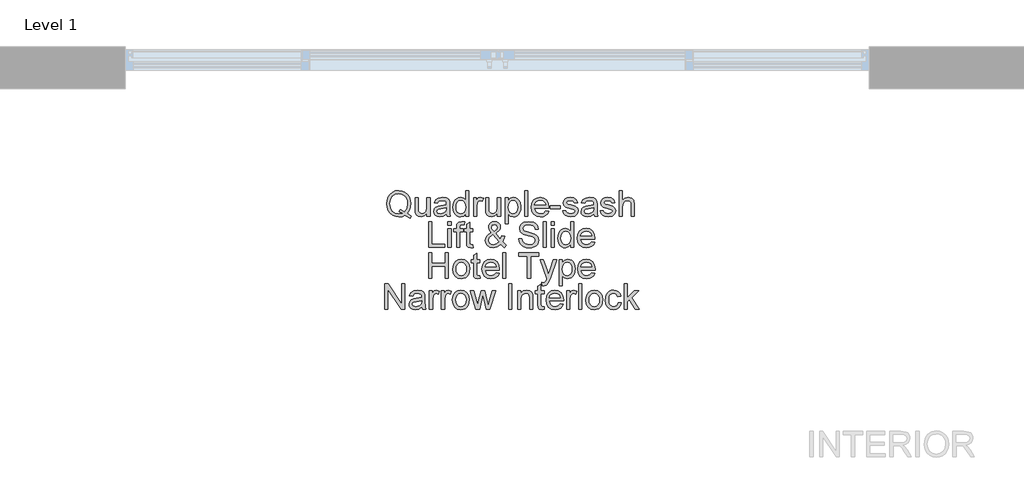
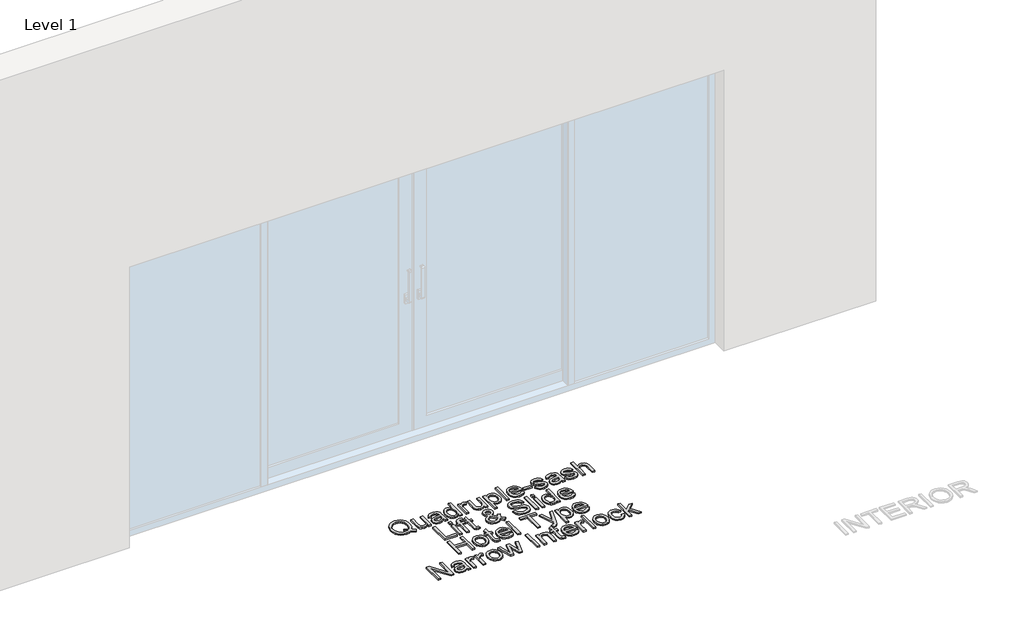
# One storey, part 15 of 17: 1 proxy.
"""IFC4 building model written with IfcOpenShell, lengths in millimetres."""

from ifc_helpers import new_model, si_unit, origin, origin_with_axes, place, context, project, spatial, polyline, outline, extrude, element, save

model = new_model("IFC4")

# Units and contexts
model_context = context("Model", 3, world=origin())
ifc_project = project(units=[si_unit("LENGTHUNIT", "METRE", prefix="MILLI")], contexts=[model_context])

# Site, building, storey
site = spatial("IfcSite", under=ifc_project)
building = spatial("IfcBuilding", under=site)
storey = spatial("IfcBuildingStorey", under=building, Name="Level 1", Elevation=0.0)

# Proxy
placement = place(None, origin())
element("IfcBuildingElementProxy", 1, Name="150mm Arial", ObjectType="150mm Arial", at=placement, inside=storey, context=model_context, shape_type="SweptSolid", body=[
    extrude(outline(polyline([(28795.8659523, -5879.5997474), (28819.226459, -5895.3083086), (28814.1496875, -5909.1038834), (28783.1372353, -5891.4823358), (28765.7088257, -5897.8834825), (28746.5329767, -5900.0171981), (28727.2651572, -5897.5569873), (28709.8551418, -5890.1763547), (28695.2732192, -5878.3397515), (28684.4896783, -5862.5116287), (28677.8264156, -5843.5611074), (28675.6053281, -5822.3573089), (28677.8218171, -5801.1351163), (28684.4712842, -5781.9086836), (28695.2134384, -5765.855233), (28709.707989, -5754.151987), (28727.0536251, -5747.0058793), (28746.3490357, -5744.6238433), (28765.7961977, -5747.0610616), (28783.2292058, -5754.3727162), (28797.7007637, -5766.0713637), (28808.2635755, -5781.6695603), (28814.7199045, -5800.3395715), (28816.8720142, -5821.2536629), (28811.6480899, -5854.1791015), (28805.0905933, -5867.8367206), (28795.8659523, -5879.5997474)]), holes=[polyline([(28751.7201129, -5854.5469835), (28767.5574328, -5860.534263), (28780.3413321, -5868.8575931), (28793.6126751, -5849.4334238), (28798.0364561, -5822.2101561), (28796.4729576, -5805.6324737), (28791.7824621, -5791.2896744), (28784.0799329, -5779.5450417), (28773.4803329, -5770.7618591), (28760.7010321, -5765.2850159), (28746.4594003, -5763.4594015), (28725.931585, -5767.152017), (28709.2297424, -5778.2298636), (28698.1381003, -5796.6377589), (28694.4408862, -5822.3205207), (28698.0967136, -5847.4514595), (28709.0641955, -5865.9697195), (28725.7154543, -5877.3786598), (28746.4226121, -5881.18164), (28766.6929101, -5877.318879), (28746.8640705, -5868.9679577), (28751.7201129, -5854.5469835)])]), origin_with_axes(), (0.0, 0.0, 1.0), 10.0),
    extrude(outline(polyline([(28913.4042498, -5897.6627533), (28913.4042498, -5878.6432542), (28898.6521817, -5894.6737121), (28879.4119534, -5900.0171981), (28861.6984353, -5896.2648018), (28849.4847531, -5886.8470227), (28843.8745527, -5872.9778715), (28842.7709067, -5855.4666885), (28842.7709067, -5787.0038492), (28861.6064648, -5787.0038492), (28861.6064648, -5846.6007324), (28862.746899, -5865.8041726), (28870.1965094, -5877.0797557), (28884.2312075, -5881.18164), (28899.9581628, -5876.9877852), (28910.3508292, -5865.5650493), (28913.4042498, -5844.5773814), (28913.4042498, -5787.0038492), (28932.2398079, -5787.0038492), (28932.2398079, -5897.6627533), (28913.4042498, -5897.6627533)])), origin_with_axes(), (0.0, 0.0, 1.0), 10.0),
    extrude(outline(polyline([(29028.7720434, -5883.5360847), (29010.5067024, -5896.30159), (28990.3283749, -5900.0171981), (28974.5876241, -5897.782315), (28962.9763486, -5891.0776656), (28955.8164453, -5880.8965314), (28953.4298108, -5868.2321937), (28957.0350544, -5853.3329729), (28966.5080158, -5842.5172423), (28979.6965853, -5836.3368247), (28995.9937577, -5833.5041334), (29028.6616788, -5827.0294103), (29028.7720434, -5822.8355555), (29027.4752594, -5814.4294519), (29023.5849073, -5808.9296161), (29014.8844981, -5804.846126), (29002.7627864, -5803.4849626), (28983.706499, -5807.1086002), (28974.6198138, -5819.966076), (28955.7842556, -5817.6116312), (28963.9328418, -5799.2175314), (28980.3403788, -5788.438589), (29005.1908076, -5784.6494044), (29028.0178854, -5787.9971306), (29040.9121493, -5796.4032342), (29046.6878966, -5809.1871335), (29047.6076016, -5825.6682469), (29047.6076016, -5849.10233), (29048.5640948, -5881.8254334), (29052.3164911, -5897.6627533), (29033.480933, -5897.6627533), (29028.7720434, -5883.5360847)]), holes=[polyline([(29028.7720434, -5845.8649684), (28998.3849906, -5851.6407157), (28982.1797888, -5854.6941363), (28974.8405429, -5859.6605432), (28972.265369, -5866.9078185), (28977.8755694, -5877.0981498), (28994.3382887, -5881.18164), (29013.394576, -5876.6750855), (29025.6818347, -5865.7673844), (29028.6616788, -5851.1992574), (29028.7720434, -5845.8649684)])]), origin_with_axes(), (0.0, 0.0, 1.0), 10.0),
    extrude(outline(polyline([(29141.7853924, -5897.6627533), (29141.7853924, -5879.894053), (29129.3233898, -5894.9864118), (29112.0973153, -5900.0171981), (29099.9204213, -5898.1961822), (29088.7735969, -5892.7331346), (29079.3374237, -5884.0097328), (29072.2924835, -5872.4076544), (29067.9054907, -5858.3959489), (29066.4431597, -5842.4436659), (29071.832631, -5812.4612833), (29078.5648715, -5800.5694978), (29087.9826506, -5791.8231033), (29099.3731968, -5786.4428292), (29112.023739, -5784.6494044), (29129.3877691, -5789.7813583), (29141.7853924, -5803.1170806), (29141.7853924, -5746.9782881), (29160.6209505, -5746.9782881), (29160.6209505, -5897.6627533), (29141.7853924, -5897.6627533)]), holes=[polyline([(29085.2787179, -5842.3700895), (29087.4032364, -5859.4076244), (29093.776792, -5871.5247376), (29103.0382212, -5878.7674144), (29113.8263607, -5881.18164), (29124.6099017, -5878.877779), (29133.6368062, -5871.966196), (29139.7482458, -5860.3181323), (29141.7853924, -5843.8048292), (29139.7114576, -5825.7510203), (29133.4896534, -5813.2338354), (29124.2328227, -5805.9221808), (29113.0538085, -5803.4849626), (29102.1553044, -5805.8256118), (29093.224969, -5812.8475594), (29087.2652807, -5824.9094903), (29085.2787179, -5842.3700895)])]), origin_with_axes(), (0.0, 0.0, 1.0), 10.0),
    extrude(outline(polyline([(29188.8742877, -5897.6627533), (29188.8742877, -5787.0038492), (29205.3554011, -5787.0038492), (29205.3554011, -5803.374598), (29217.0540486, -5788.2914362), (29228.8262724, -5784.6494044), (29247.735407, -5790.4619399), (29241.4446249, -5807.3477235), (29228.200873, -5803.4849626), (29217.5506893, -5807.2005707), (29210.7632665, -5817.5012666), (29207.7098459, -5839.5006099), (29207.7098459, -5897.6627533), (29188.8742877, -5897.6627533)])), origin_with_axes(), (0.0, 0.0, 1.0), 10.0),
    extrude(outline(polyline([(29330.1409739, -5897.6627533), (29330.1409739, -5878.6432542), (29315.3889059, -5894.6737121), (29296.1486775, -5900.0171981), (29278.4351595, -5896.2648018), (29266.2214772, -5886.8470227), (29260.6112768, -5872.9778715), (29259.5076308, -5855.4666885), (29259.5076308, -5787.0038492), (29278.343189, -5787.0038492), (29278.343189, -5846.6007324), (29279.4836232, -5865.8041726), (29286.9332336, -5877.0797557), (29300.9679317, -5881.18164), (29316.694887, -5876.9877852), (29327.0875533, -5865.5650493), (29330.1409739, -5844.5773814), (29330.1409739, -5787.0038492), (29348.976532, -5787.0038492), (29348.976532, -5897.6627533), (29330.1409739, -5897.6627533)])), origin_with_axes(), (0.0, 0.0, 1.0), 10.0),
    extrude(outline(polyline([(29374.8754245, -5940.0427592), (29374.8754245, -5787.0038492), (29393.7109827, -5787.0038492), (29393.7109827, -5805.4715254), (29406.7340053, -5789.8549347), (29424.3187647, -5784.6494044), (29437.0566787, -5786.4704203), (29448.1943061, -5791.9334679), (29457.2625973, -5800.7074535), (29463.7925027, -5812.4612833), (29469.0532153, -5841.4871727), (29467.5678917, -5857.5958055), (29463.111921, -5872.0029842), (29455.8278575, -5883.9775431), (29445.8582555, -5892.7883169), (29434.24698, -5898.2099778), (29422.0378963, -5900.0171981), (29405.6487534, -5895.1795499), (29393.7109827, -5882.9474735), (29393.7109827, -5940.0427592), (29374.8754245, -5940.0427592)]), holes=[polyline([(29393.7109827, -5843.2162181), (29395.7481292, -5860.1020016), (29401.8595689, -5871.9110137), (29410.8772763, -5878.8639834), (29421.6332261, -5881.18164), (29432.5639199, -5878.7812099), (29441.8115535, -5871.5799199), (29448.1161312, -5859.3386465), (29450.2176571, -5841.8182665), (29448.166715, -5825.0244534), (29442.0138886, -5813.0498945), (29433.0099768, -5805.8761955), (29422.4057783, -5803.4849626), (29411.760193, -5806.0279469), (29402.4113918, -5813.6568997), (29395.886085, -5826.1326979), (29393.7109827, -5843.2162181)])]), origin_with_axes(), (0.0, 0.0, 1.0), 10.0),
    extrude(outline(polyline([(29490.2432182, -5897.6627533), (29490.2432182, -5746.9782881), (29509.0787763, -5746.9782881), (29509.0787763, -5897.6627533), (29490.2432182, -5897.6627533)])), origin_with_axes(), (0.0, 0.0, 1.0), 10.0),
    extrude(outline(polyline([(29614.8080618, -5864.7005266), (29633.2757379, -5867.0549713), (29626.6216723, -5880.9701078), (29616.0036782, -5891.3719712), (29601.660879, -5897.8558914), (29583.8323978, -5900.0171981), (29561.7318869, -5896.2877944), (29544.7265417, -5885.0995832), (29533.8832199, -5867.1791315), (29530.2687793, -5843.2530063), (29533.9200081, -5818.5221391), (29544.8736945, -5800.0268718), (29561.6491135, -5788.4937713), (29582.76554, -5784.6494044), (29603.2243774, -5788.4845742), (29619.5721336, -5799.9900836), (29630.2912952, -5818.4485627), (29633.8643491, -5843.1426417), (29633.7539845, -5848.2194132), (29549.1043374, -5848.2194132), (29552.3646916, -5862.3184907), (29559.9384622, -5872.6835659), (29570.869156, -5879.0571214), (29584.2002798, -5881.18164), (29602.6679559, -5877.2453026), (29614.8080618, -5864.7005266)]), holes=[polyline([(29549.1043374, -5829.383855), (29615.028791, -5829.383855), (29612.4812081, -5819.4326471), (29607.4872101, -5812.3141305), (29596.5059325, -5805.6922545), (29582.6919636, -5803.4849626), (29569.9954362, -5805.2461976), (29559.4970038, -5810.5299028), (29552.1991447, -5818.765861), (29549.1043374, -5829.383855)])]), origin_with_axes(), (0.0, 0.0, 1.0), 10.0),
    extrude(outline(polyline([(29643.2821282, -5852.9283027), (29643.2821282, -5834.0927446), (29702.1432474, -5834.0927446), (29702.1432474, -5852.9283027), (29643.2821282, -5852.9283027)])), origin_with_axes(), (0.0, 0.0, 1.0), 10.0),
    extrude(outline(polyline([(29716.269916, -5864.7005266), (29735.1054742, -5862.3460818), (29738.0761213, -5870.4026975), (29743.8242775, -5876.3255976), (29763.8002698, -5881.18164), (29783.00371, -5876.7302678), (29789.2577039, -5866.2824192), (29787.6850083, -5861.4815591), (29782.9669218, -5857.8211333), (29763.5795406, -5852.4500561), (29735.2158388, -5843.2346122), (29722.8366096, -5832.4740638), (29718.6243608, -5817.2805374), (29722.0088752, -5803.2458393), (29731.2427132, -5792.5220791), (29743.2172722, -5786.9486669), (29759.4224741, -5784.6494044), (29782.3415224, -5788.3466185), (29796.9096494, -5798.3530087), (29803.3843725, -5815.2571864), (29784.5488143, -5817.6116312), (29777.4670859, -5807.2189648), (29760.894002, -5803.4849626), (29742.8677843, -5807.0534179), (29737.459919, -5815.367551), (29739.7039991, -5820.8489927), (29746.7305452, -5825.0060593), (29762.9541412, -5829.015973), (29790.6004732, -5837.8819291), (29803.4395548, -5847.9251076), (29808.093262, -5864.2958564), (29802.6302144, -5882.3220741), (29786.8664709, -5895.4002791), (29763.5427524, -5900.0171981), (29744.5508444, -5897.791512), (29730.6908902, -5891.1144538), (29721.4386581, -5880.0595999), (29716.269916, -5864.7005266)])), origin_with_axes(), (0.0, 0.0, 1.0), 10.0),
    extrude(outline(polyline([(29899.916608, -5883.5360847), (29881.651267, -5896.30159), (29861.4729395, -5900.0171981), (29845.7321887, -5897.782315), (29834.1209132, -5891.0776656), (29826.9610099, -5880.8965314), (29824.5743754, -5868.2321937), (29828.179619, -5853.3329729), (29837.6525803, -5842.5172423), (29850.8411499, -5836.3368247), (29867.1383223, -5833.5041334), (29899.8062434, -5827.0294103), (29899.916608, -5822.8355555), (29898.619824, -5814.4294519), (29894.7294719, -5808.9296161), (29886.0290627, -5804.846126), (29873.907351, -5803.4849626), (29854.8510636, -5807.1086002), (29845.7643783, -5819.966076), (29826.9288202, -5817.6116312), (29835.0774064, -5799.2175314), (29851.4849434, -5788.438589), (29876.3353721, -5784.6494044), (29899.1624499, -5787.9971306), (29912.0567139, -5796.4032342), (29917.8324612, -5809.1871335), (29918.7521662, -5825.6682469), (29918.7521662, -5849.10233), (29919.7086594, -5881.8254334), (29923.4610557, -5897.6627533), (29904.6254976, -5897.6627533), (29899.916608, -5883.5360847)]), holes=[polyline([(29899.916608, -5845.8649684), (29869.5295552, -5851.6407157), (29853.3243533, -5854.6941363), (29845.9851075, -5859.6605432), (29843.4099336, -5866.9078185), (29849.020134, -5877.0981498), (29865.4828533, -5881.18164), (29884.5391406, -5876.6750855), (29896.8263993, -5865.7673844), (29899.8062434, -5851.1992574), (29899.916608, -5845.8649684)])]), origin_with_axes(), (0.0, 0.0, 1.0), 10.0),
    extrude(outline(polyline([(29937.5877243, -5864.7005266), (29956.4232825, -5862.3460818), (29959.3939296, -5870.4026975), (29965.1420858, -5876.3255976), (29985.1180781, -5881.18164), (30004.3215183, -5876.7302678), (30010.5755122, -5866.2824192), (30009.0028166, -5861.4815591), (30004.2847301, -5857.8211333), (29984.8973489, -5852.4500561), (29956.5336471, -5843.2346122), (29944.1544179, -5832.4740638), (29939.9421691, -5817.2805374), (29943.3266835, -5803.2458393), (29952.5605215, -5792.5220791), (29964.5350805, -5786.9486669), (29980.7402824, -5784.6494044), (30003.6593307, -5788.3466185), (30018.2274577, -5798.3530087), (30024.7021808, -5815.2571864), (30005.8666226, -5817.6116312), (29998.7848942, -5807.2189648), (29982.2118103, -5803.4849626), (29964.1855926, -5807.0534179), (29958.7777272, -5815.367551), (29961.0218074, -5820.8489927), (29968.0483535, -5825.0060593), (29984.2719495, -5829.015973), (30011.9182815, -5837.8819291), (30024.7573631, -5847.9251076), (30029.4110703, -5864.2958564), (30023.9480227, -5882.3220741), (30008.1842792, -5895.4002791), (29984.8605607, -5900.0171981), (29965.8686527, -5897.791512), (29952.0086985, -5891.1144538), (29942.7564664, -5880.0595999), (29937.5877243, -5864.7005266)])), origin_with_axes(), (0.0, 0.0, 1.0), 10.0),
    extrude(outline(polyline([(30050.6010732, -5897.6627533), (30050.6010732, -5746.9782881), (30069.4366314, -5746.9782881), (30069.4366314, -5802.3813166), (30084.1243201, -5789.0823825), (30102.2149172, -5784.6494044), (30123.3681319, -5789.4870527), (30136.2072135, -5802.8595632), (30140.0699745, -5827.6180215), (30140.0699745, -5897.6627533), (30121.2344163, -5897.6627533), (30121.2344163, -5829.567796), (30119.7352972, -5817.7771781), (30115.2379398, -5809.7021683), (30107.9906645, -5805.039264), (30098.2417916, -5803.4849626), (30082.8091419, -5807.6788173), (30072.5084461, -5819.046371), (30069.4366314, -5838.8752105), (30069.4366314, -5897.6627533), (30050.6010732, -5897.6627533)])), origin_with_axes(), (0.0, 0.0, 1.0), 10.0),
    extrude(outline(polyline([(28923.9992512, -6080.6249801), (28923.9992512, -5929.9405149), (28942.8348094, -5929.9405149), (28942.8348094, -6061.789422), (29018.177042, -6061.789422), (29018.177042, -6080.6249801), (28923.9992512, -6080.6249801)])), origin_with_axes(), (0.0, 0.0, 1.0), 10.0),
    extrude(outline(polyline([(29037.0126001, -5948.776073), (29037.0126001, -5929.9405149), (29055.8481583, -5929.9405149), (29055.8481583, -5948.776073), (29037.0126001, -5948.776073)])), origin_with_axes(), (0.0, 0.0, 1.0), 10.0),
    extrude(outline(polyline([(29037.0126001, -6080.6249801), (29037.0126001, -5969.966076), (29055.8481583, -5969.966076), (29055.8481583, -6080.6249801), (29037.0126001, -6080.6249801)])), origin_with_axes(), (0.0, 0.0, 1.0), 10.0),
    extrude(outline(polyline([(29185.3426206, -6064.9164189), (29187.6970654, -6081.1768031), (29173.6071849, -6082.9794249), (29157.8250474, -6079.8524279), (29149.9523727, -6071.6486594), (29147.6715043, -6050.2747155), (29147.6715043, -5988.8016341), (29133.5448357, -5988.8016341), (29133.5448357, -5969.966076), (29147.6715043, -5969.966076), (29147.6715043, -5943.0739021), (29166.5070624, -5932.0006541), (29166.5070624, -5969.966076), (29185.3426206, -5969.966076), (29185.3426206, -5988.8016341), (29166.5070624, -5988.8016341), (29166.5070624, -6049.7228925), (29167.5003438, -6059.4349772), (29170.7193113, -6062.8746738), (29177.1388521, -6064.1438667), (29185.3426206, -6064.9164189)])), origin_with_axes(), (0.0, 0.0, 1.0), 10.0),
    extrude(outline(polyline([(29088.8103851, -6080.6249801), (29088.8103851, -5988.8016341), (29072.3292717, -5988.8016341), (29072.3292717, -5969.966076), (29088.8103851, -5969.966076), (29088.8103851, -5958.8192515), (29090.7969478, -5943.1106903), (29100.4354561, -5931.8902895), (29119.4181671, -5927.5860701), (29136.5982562, -5929.6462093), (29133.8391413, -5947.3045451), (29122.9866224, -5946.4216283), (29111.1224281, -5949.5486252), (29107.6459432, -5961.2104845), (29107.6459432, -5969.966076), (29128.8359461, -5969.966076), (29128.8359461, -5988.8016341), (29107.6459432, -5988.8016341), (29107.6459432, -6080.6249801), (29088.8103851, -6080.6249801)])), origin_with_axes(), (0.0, 0.0, 1.0), 10.0),
    extrude(outline(polyline([(29349.4547786, -6062.0101512), (29329.4787863, -6077.7371064), (29306.1182796, -6082.9794249), (29285.3329469, -6079.0982698), (29269.3300801, -6067.4548047), (29261.0803263, -6054.054703), (29258.3304084, -6039.1646793), (29260.5422989, -6025.9669127), (29267.1779704, -6014.1119154), (29278.2098317, -6003.6088844), (29293.6102918, -5994.4670168), (29280.4585104, -5975.4107295), (29277.1659666, -5961.2840609), (29279.7595347, -5948.5645409), (29287.5402388, -5937.6292486), (29299.2480833, -5930.0968647), (29313.6230723, -5927.5860701), (29327.2990855, -5929.9865001), (29338.2343778, -5937.1877902), (29345.4080767, -5947.7552005), (29347.7993097, -5960.2539913), (29346.0288776, -5970.7478252), (29340.7175813, -5980.4507128), (29319.472396, -5997.4836492), (29346.7324519, -6031.4391574), (29354.862644, -6010.5802482), (29373.6982021, -6014.6637384), (29360.3808739, -6045.6761906), (29383.1159812, -6068.4848743), (29368.9893126, -6082.9794249), (29349.4547786, -6062.0101512)]), holes=[polyline([(29309.9442524, -5985.6010608), (29325.4320844, -5973.9208074), (29328.9637515, -5962.8291653), (29324.3100443, -5951.0017591), (29312.6665791, -5946.4216283), (29300.7655966, -5950.9649709), (29296.0015247, -5962.0566131), (29297.6202055, -5968.9544005), (29302.5130361, -5976.6247401), (29309.9442524, -5985.6010608)]), polyline([(29336.8364262, -6048.4353055), (29303.2120118, -6006.4599699), (29282.5186496, -6022.2421075), (29277.1659666, -6036.6630817), (29278.9961795, -6045.5474319), (29284.4868183, -6054.7628758), (29293.3343803, -6061.798619), (29305.2353628, -6064.1438667), (29322.5442107, -6059.766071), (29336.8364262, -6048.4353055)])]), origin_with_axes(), (0.0, 0.0, 1.0), 10.0),
    extrude(outline(polyline([(29456.103769, -6028.8271952), (29474.9393272, -6028.8271952), (29481.0093801, -6047.6811474), (29495.8350245, -6059.6005241), (29518.422979, -6064.1438667), (29538.1046658, -6060.7041701), (29550.8149887, -6051.2496028), (29554.9904493, -6038.6128563), (29551.8634524, -6026.8590265), (29539.061159, -6018.3057701), (29511.6355562, -6011.1136771), (29482.1130261, -6001.8246567), (29466.0917652, -5987.8083527), (29460.8126586, -5969.0831592), (29462.4451349, -5958.0512978), (29467.342564, -5947.7643976), (29475.3761871, -5939.0455943), (29486.4172454, -5932.7180239), (29514.3394889, -5927.5860701), (29544.1379305, -5932.9571472), (29555.5606664, -5939.5882202), (29564.0035582, -5948.7392848), (29569.3470442, -5959.840124), (29571.4715627, -5972.3205207), (29552.6360046, -5972.3205207), (29549.1779138, -5961.0817258), (29541.9674267, -5952.9699278), (29530.7010406, -5948.0587031), (29515.0752529, -5946.4216283), (29499.0815831, -5948.040309), (29488.1095026, -5952.8963514), (29481.7635382, -5960.0424591), (29479.6482167, -5968.5313362), (29481.1473359, -5975.7694144), (29485.6446933, -5981.591147), (29516.399628, -5992.1125721), (29549.7297368, -6001.5671393), (29560.4672925, -6008.4005474), (29567.9582897, -6016.8342421), (29572.359078, -6026.7762531), (29573.8260075, -6038.1346097), (29572.1383488, -6049.7458851), (29567.0753729, -6060.6673819), (29558.8440132, -6070.0667668), (29547.6512035, -6077.1117071), (29534.191321, -6081.5124954), (29519.158743, -6082.9794249), (29500.7048624, -6081.3975323), (29485.5159346, -6076.6518546), (29473.4172154, -6068.7239976), (29464.2339611, -6057.5955672), (29458.3386522, -6044.0391157), (29456.103769, -6028.8271952)])), origin_with_axes(), (0.0, 0.0, 1.0), 10.0),
    extrude(outline(polyline([(29599.7249, -6080.6249801), (29599.7249, -5929.9405149), (29618.5604581, -5929.9405149), (29618.5604581, -6080.6249801), (29599.7249, -6080.6249801)])), origin_with_axes(), (0.0, 0.0, 1.0), 10.0),
    extrude(outline(polyline([(29646.8137953, -5948.776073), (29646.8137953, -5929.9405149), (29665.6493535, -5929.9405149), (29665.6493535, -5948.776073), (29646.8137953, -5948.776073)])), origin_with_axes(), (0.0, 0.0, 1.0), 10.0),
    extrude(outline(polyline([(29646.8137953, -6080.6249801), (29646.8137953, -5969.966076), (29665.6493535, -5969.966076), (29665.6493535, -6080.6249801), (29646.8137953, -6080.6249801)])), origin_with_axes(), (0.0, 0.0, 1.0), 10.0),
    extrude(outline(polyline([(29762.181589, -6080.6249801), (29762.181589, -6062.8562797), (29749.7195864, -6077.9486386), (29732.493512, -6082.9794249), (29720.316618, -6081.158409), (29709.1697935, -6075.6953614), (29699.7336203, -6066.9719596), (29692.6886801, -6055.3698811), (29688.3016873, -6041.3581756), (29686.8393564, -6025.4058926), (29692.2288276, -5995.42351), (29698.9610682, -5983.5317245), (29708.3788472, -5974.7853301), (29719.7693935, -5969.4050559), (29732.4199356, -5967.6116312), (29749.7839658, -5972.743585), (29762.181589, -5986.0793073), (29762.181589, -5929.9405149), (29781.0171472, -5929.9405149), (29781.0171472, -6080.6249801), (29762.181589, -6080.6249801)]), holes=[polyline([(29705.6749146, -6025.3323162), (29707.7994331, -6042.3698511), (29714.1729887, -6054.4869644), (29723.4344179, -6061.7296411), (29734.2225574, -6064.1438667), (29745.0060984, -6061.8400057), (29754.0330028, -6054.9284227), (29760.1444425, -6043.2803591), (29762.181589, -6026.767056), (29760.1076543, -6008.7132471), (29753.88585, -5996.1960622), (29744.6290193, -5988.8844076), (29733.4500052, -5986.4471893), (29722.5515011, -5988.7878385), (29713.6211657, -5995.8097861), (29707.6614773, -6007.871717), (29705.6749146, -6025.3323162)])]), origin_with_axes(), (0.0, 0.0, 1.0), 10.0),
    extrude(outline(polyline([(29886.7464326, -6047.6627533), (29905.2141088, -6050.0171981), (29898.5600432, -6063.9323346), (29887.9420491, -6074.334198), (29873.5992498, -6080.8181182), (29855.7707686, -6082.9794249), (29833.6702577, -6079.2500212), (29816.6649125, -6068.06181), (29805.8215907, -6050.1413583), (29802.2071501, -6026.215233), (29805.8583789, -6001.4843659), (29816.8120653, -5982.9890986), (29833.5874843, -5971.455998), (29854.7039108, -5967.6116312), (29875.1627483, -5971.446801), (29891.5105044, -5982.9523104), (29902.2296661, -6001.4107895), (29905.8027199, -6026.1048684), (29905.6923553, -6031.18164), (29821.0427083, -6031.18164), (29824.3030624, -6045.2807174), (29831.876833, -6055.6457926), (29842.8075268, -6062.0193482), (29856.1386506, -6064.1438667), (29874.6063268, -6060.2075294), (29886.7464326, -6047.6627533)]), holes=[polyline([(29821.0427083, -6012.3460818), (29886.9671618, -6012.3460818), (29884.419579, -6002.3948738), (29879.4255809, -5995.2763572), (29868.4443033, -5988.6544813), (29854.6303344, -5986.4471893), (29841.9338071, -5988.2084244), (29831.4353746, -5993.4921296), (29824.1375155, -6001.7280877), (29821.0427083, -6012.3460818)])]), origin_with_axes(), (0.0, 0.0, 1.0), 10.0),
    extrude(outline(polyline([(28922.8220288, -6263.5872069), (28922.8220288, -6112.9027417), (28941.657587, -6112.9027417), (28941.657587, -6174.1183057), (29021.7087091, -6174.1183057), (29021.7087091, -6112.9027417), (29040.5442673, -6112.9027417), (29040.5442673, -6263.5872069), (29021.7087091, -6263.5872069), (29021.7087091, -6192.9538638), (28941.657587, -6192.9538638), (28941.657587, -6263.5872069), (28922.8220288, -6263.5872069)])), origin_with_axes(), (0.0, 0.0, 1.0), 10.0),
    extrude(outline(polyline([(29066.4431597, -6208.2577548), (29070.5174528, -6181.5771131), (29082.7403321, -6162.8243284), (29097.841888, -6153.6364756), (29115.9232881, -6150.573858), (29135.7107409, -6154.3032617), (29151.5158711, -6165.4914729), (29161.8763478, -6183.2555747), (29165.3298401, -6206.7126504), (29163.8031298, -6225.7413466), (29159.2229989, -6240.2267002), (29151.7228048, -6251.0746205), (29141.4359045, -6259.191017), (29129.2176237, -6264.253993), (29115.9232881, -6265.9416516), (29095.896712, -6262.2260435), (29080.1099759, -6251.079219), (29069.8598638, -6232.9426367), (29066.4431597, -6208.2577548)]), holes=[polyline([(29085.2787179, -6208.2209666), (29087.4584187, -6225.2676986), (29093.9975212, -6237.4124029), (29103.8383646, -6244.6826709), (29115.9232881, -6247.1060935), (29127.9530293, -6244.6688753), (29137.7754786, -6237.3572206), (29144.3145811, -6225.0515679), (29146.4942819, -6207.6323554), (29144.3007855, -6191.0822642), (29137.7202963, -6179.1031067), (29127.8840515, -6171.8328388), (29115.9232881, -6169.4094161), (29103.8383646, -6171.8236417), (29093.9975212, -6179.0663185), (29087.4584187, -6191.1834317), (29085.2787179, -6208.2209666)])]), origin_with_axes(), (0.0, 0.0, 1.0), 10.0),
    extrude(outline(polyline([(29226.545404, -6247.8786457), (29228.8998488, -6264.1390299), (29214.8099684, -6265.9416516), (29199.0278308, -6262.8146547), (29191.1551561, -6254.6108862), (29188.8742877, -6233.2369423), (29188.8742877, -6171.7638609), (29174.7476191, -6171.7638609), (29174.7476191, -6152.9283027), (29188.8742877, -6152.9283027), (29188.8742877, -6126.0361289), (29207.7098459, -6114.9628808), (29207.7098459, -6152.9283027), (29226.545404, -6152.9283027), (29226.545404, -6171.7638609), (29207.7098459, -6171.7638609), (29207.7098459, -6232.6851193), (29208.7031273, -6242.397204), (29211.9220947, -6245.8369006), (29218.3416356, -6247.1060935), (29226.545404, -6247.8786457)])), origin_with_axes(), (0.0, 0.0, 1.0), 10.0),
    extrude(outline(polyline([(29322.8569104, -6230.6249801), (29341.3245865, -6232.9794249), (29334.670521, -6246.8945613), (29324.0525269, -6257.2964248), (29309.7097276, -6263.7803449), (29291.8812464, -6265.9416516), (29269.7807355, -6262.2122479), (29252.7753903, -6251.0240367), (29241.9320685, -6233.1035851), (29238.3176279, -6209.1774598), (29241.9688567, -6184.4465927), (29252.9225431, -6165.9513254), (29269.6979621, -6154.4182248), (29290.8143886, -6150.573858), (29311.2732261, -6154.4090278), (29327.6209822, -6165.9145372), (29338.3401439, -6184.3730163), (29341.9131977, -6209.0670952), (29341.8028331, -6214.1438667), (29257.153186, -6214.1438667), (29260.4135402, -6228.2429442), (29267.9873108, -6238.6080194), (29278.9180046, -6244.981575), (29292.2491284, -6247.1060935), (29310.7168045, -6243.1697561), (29322.8569104, -6230.6249801)]), holes=[polyline([(29257.153186, -6195.3083086), (29323.0776396, -6195.3083086), (29320.5300568, -6185.3571006), (29315.5360587, -6178.238584), (29304.5547811, -6171.6167081), (29290.7408122, -6169.4094161), (29278.0442848, -6171.1706512), (29267.5458524, -6176.4543563), (29260.2479933, -6184.6903145), (29257.153186, -6195.3083086)])]), origin_with_axes(), (0.0, 0.0, 1.0), 10.0),
    extrude(outline(polyline([(29360.7487559, -6263.5872069), (29360.7487559, -6112.9027417), (29379.584314, -6112.9027417), (29379.584314, -6263.5872069), (29360.7487559, -6263.5872069)])), origin_with_axes(), (0.0, 0.0, 1.0), 10.0),
    extrude(outline(polyline([(29506.7243316, -6263.5872069), (29506.7243316, -6131.7382998), (29457.2809914, -6131.7382998), (29457.2809914, -6112.9027417), (29575.0032299, -6112.9027417), (29575.0032299, -6131.7382998), (29525.5598897, -6131.7382998), (29525.5598897, -6263.5872069), (29506.7243316, -6263.5872069)])), origin_with_axes(), (0.0, 0.0, 1.0), 10.0),
    extrude(outline(polyline([(29593.838788, -6305.9672127), (29591.4843433, -6287.8306304), (29601.0492751, -6289.4860993), (29609.9888076, -6287.4075661), (29615.4702494, -6281.6134246), (29620.6205973, -6267.7442734), (29622.0921253, -6263.1825367), (29582.0665642, -6152.9283027), (29601.9321919, -6152.9283027), (29623.158983, -6214.3645959), (29630.5534112, -6238.9391132), (29637.9478393, -6217.2340755), (29659.7632416, -6152.9283027), (29679.4817165, -6152.9283027), (29640.9644716, -6266.2359572), (29630.9580813, -6290.8104745), (29620.0319861, -6304.0910145), (29605.3534945, -6308.3216575), (29593.838788, -6305.9672127)])), origin_with_axes(), (0.0, 0.0, 1.0), 10.0),
    extrude(outline(polyline([(29695.0799131, -6305.9672127), (29695.0799131, -6152.9283027), (29713.9154713, -6152.9283027), (29713.9154713, -6171.3959789), (29726.9384939, -6155.7793882), (29744.5232533, -6150.573858), (29757.2611673, -6152.3948738), (29768.3987947, -6157.8579215), (29777.4670859, -6166.631907), (29783.9969913, -6178.3857368), (29789.2577039, -6207.4116262), (29787.7723803, -6223.5202591), (29783.3164096, -6237.9274377), (29776.0323461, -6249.9019967), (29766.0627441, -6258.7127704), (29754.4514686, -6264.1344313), (29742.2423849, -6265.9416516), (29725.853242, -6261.1040034), (29713.9154713, -6248.8719271), (29713.9154713, -6305.9672127), (29695.0799131, -6305.9672127)]), holes=[polyline([(29713.9154713, -6209.1406716), (29715.9526178, -6226.0264552), (29722.0640575, -6237.8354672), (29731.0817649, -6244.7884369), (29741.8377147, -6247.1060935), (29752.7684085, -6244.7056635), (29762.0160421, -6237.5043734), (29768.3206198, -6225.2631), (29770.4221457, -6207.74272), (29768.3712036, -6190.9489069), (29762.2183772, -6178.974348), (29753.2144654, -6171.8006491), (29742.6102669, -6169.4094161), (29731.9646816, -6171.9524004), (29722.6158804, -6179.5813533), (29716.0905736, -6192.0571514), (29713.9154713, -6209.1406716)])]), origin_with_axes(), (0.0, 0.0, 1.0), 10.0),
    extrude(outline(polyline([(29887.923655, -6230.6249801), (29906.3913311, -6232.9794249), (29899.7372655, -6246.8945613), (29889.1192715, -6257.2964248), (29874.7764722, -6263.7803449), (29856.947991, -6265.9416516), (29834.8474801, -6262.2122479), (29817.8421349, -6251.0240367), (29806.9988131, -6233.1035851), (29803.3843725, -6209.1774598), (29807.0356013, -6184.4465927), (29817.9892877, -6165.9513254), (29834.7647067, -6154.4182248), (29855.8811332, -6150.573858), (29876.3399707, -6154.4090278), (29892.6877268, -6165.9145372), (29903.4068885, -6184.3730163), (29906.9799423, -6209.0670952), (29906.8695777, -6214.1438667), (29822.2199306, -6214.1438667), (29825.4802848, -6228.2429442), (29833.0540554, -6238.6080194), (29843.9847492, -6244.981575), (29857.315873, -6247.1060935), (29875.7835491, -6243.1697561), (29887.923655, -6230.6249801)]), holes=[polyline([(29822.2199306, -6195.3083086), (29888.1443842, -6195.3083086), (29885.5968014, -6185.3571006), (29880.6028033, -6178.238584), (29869.6215257, -6171.6167081), (29855.8075568, -6169.4094161), (29843.1110294, -6171.1706512), (29832.612597, -6176.4543563), (29825.3147379, -6184.6903145), (29822.2199306, -6195.3083086)])]), origin_with_axes(), (0.0, 0.0, 1.0), 10.0),
    extrude(outline(polyline([(28663.8331042, -6446.5494336), (28663.8331042, -6295.8649684), (28683.9930376, -6295.8649684), (28762.7197845, -6415.2426759), (28762.7197845, -6295.8649684), (28781.5553427, -6295.8649684), (28781.5553427, -6446.5494336), (28761.3954093, -6446.5494336), (28682.6686624, -6327.134938), (28682.6686624, -6446.5494336), (28663.8331042, -6446.5494336)])), origin_with_axes(), (0.0, 0.0, 1.0), 10.0),
    extrude(outline(polyline([(28882.7964678, -6432.422765), (28864.5311267, -6445.1882703), (28844.3527993, -6448.9038784), (28828.6120484, -6446.6689953), (28817.0007729, -6439.9643459), (28809.8408696, -6429.7832117), (28807.4542351, -6417.118874), (28811.0594787, -6402.2196532), (28820.5324401, -6391.4039226), (28833.7210096, -6385.223505), (28850.018182, -6382.3908137), (28882.6861032, -6375.9160906), (28882.7964678, -6371.7222358), (28881.4996837, -6363.3161322), (28877.6093316, -6357.8162964), (28868.9089224, -6353.7328063), (28856.7872107, -6352.3716429), (28837.7309233, -6355.9952805), (28828.6442381, -6368.8527563), (28809.8086799, -6366.4983115), (28817.9572661, -6348.1042117), (28834.3648031, -6337.3252693), (28859.2152319, -6333.5360847), (28882.0423097, -6336.8838109), (28894.9365736, -6345.2899145), (28900.7123209, -6358.0738138), (28901.6320259, -6374.5549272), (28901.6320259, -6397.9890103), (28902.5885191, -6430.7121138), (28906.3409154, -6446.5494336), (28887.5053573, -6446.5494336), (28882.7964678, -6432.422765)]), holes=[polyline([(28882.7964678, -6394.7516487), (28852.409415, -6400.527396), (28836.2042131, -6403.5808166), (28828.8649673, -6408.5472235), (28826.2897933, -6415.7944988), (28831.8999937, -6425.9848301), (28848.362713, -6430.0683203), (28867.4190004, -6425.5617658), (28879.706259, -6414.6540647), (28882.6861032, -6400.0859377), (28882.7964678, -6394.7516487)])]), origin_with_axes(), (0.0, 0.0, 1.0), 10.0),
    extrude(outline(polyline([(28927.5309184, -6446.5494336), (28927.5309184, -6335.8905295), (28944.0120318, -6335.8905295), (28944.0120318, -6352.2612783), (28955.7106792, -6337.1781165), (28967.482903, -6333.5360847), (28986.3920376, -6339.3486203), (28980.1012555, -6356.2344038), (28966.8575037, -6352.3716429), (28956.2073199, -6356.087251), (28949.4198971, -6366.3879469), (28946.3664765, -6388.3872902), (28946.3664765, -6446.5494336), (28927.5309184, -6446.5494336)])), origin_with_axes(), (0.0, 0.0, 1.0), 10.0),
    extrude(outline(polyline([(28998.1642614, -6446.5494336), (28998.1642614, -6335.8905295), (29014.6453748, -6335.8905295), (29014.6453748, -6352.2612783), (29026.3440223, -6337.1781165), (29038.1162461, -6333.5360847), (29057.0253807, -6339.3486203), (29050.7345986, -6356.2344038), (29037.4908467, -6352.3716429), (29026.840663, -6356.087251), (29020.0532402, -6366.3879469), (29016.9998196, -6388.3872902), (29016.9998196, -6446.5494336), (28998.1642614, -6446.5494336)])), origin_with_axes(), (0.0, 0.0, 1.0), 10.0),
    extrude(outline(polyline([(29064.088715, -6391.2199816), (29068.1630081, -6364.5393399), (29080.3858874, -6345.7865552), (29095.4874433, -6336.5987023), (29113.5688433, -6333.5360847), (29133.3562961, -6337.2654885), (29149.1614264, -6348.4536996), (29159.5219031, -6366.2178015), (29162.9753953, -6389.6748772), (29161.448685, -6408.7035734), (29156.8685542, -6423.188927), (29149.36836, -6434.0368473), (29139.0814597, -6442.1532438), (29126.8631789, -6447.2162198), (29113.5688433, -6448.9038784), (29093.5422672, -6445.1882703), (29077.7555311, -6434.0414458), (29067.505419, -6415.9048634), (29064.088715, -6391.2199816)]), holes=[polyline([(29082.9242731, -6391.1831934), (29085.103974, -6408.2299253), (29091.6430764, -6420.3746297), (29101.4839198, -6427.6448976), (29113.5688433, -6430.0683203), (29125.5985846, -6427.631102), (29135.4210338, -6420.3194474), (29141.9601363, -6408.0137947), (29144.1398371, -6390.5945822), (29141.9463407, -6374.0444909), (29135.3658515, -6362.0653335), (29125.5296067, -6354.7950655), (29113.5688433, -6352.3716429), (29101.4839198, -6354.7858685), (29091.6430764, -6362.0285453), (29085.103974, -6374.1456585), (29082.9242731, -6391.1831934)])]), origin_with_axes(), (0.0, 0.0, 1.0), 10.0),
    extrude(outline(polyline([(29202.5227098, -6446.5494336), (29168.8615072, -6335.8905295), (29188.4328293, -6335.8905295), (29207.5259049, -6400.4538196), (29213.2280758, -6423.5200207), (29217.9001772, -6401.2999482), (29233.0937036, -6335.8905295), (29255.5345053, -6335.8905295), (29270.6544553, -6401.1160072), (29274.8115218, -6421.2391524), (29280.7712101, -6400.0123613), (29299.9010739, -6335.8905295), (29319.5459724, -6335.8905295), (29285.6272525, -6446.5494336), (29262.855357, -6446.5494336), (29248.3975946, -6381.6550497), (29244.2037398, -6361.42154), (29225.5521227, -6446.5494336), (29202.5227098, -6446.5494336)])), origin_with_axes(), (0.0, 0.0, 1.0), 10.0),
    extrude(outline(polyline([(29396.0654274, -6446.5494336), (29396.0654274, -6295.8649684), (29414.9009856, -6295.8649684), (29414.9009856, -6446.5494336), (29396.0654274, -6446.5494336)])), origin_with_axes(), (0.0, 0.0, 1.0), 10.0),
    extrude(outline(polyline([(29450.2176571, -6446.5494336), (29450.2176571, -6335.8905295), (29469.0532153, -6335.8905295), (29469.0532153, -6351.3415733), (29483.4557954, -6337.9874569), (29503.119088, -6333.5360847), (29520.9061825, -6337.1229342), (29533.0462883, -6346.5407133), (29538.693277, -6360.3914704), (29539.6865583, -6378.6016291), (29539.6865583, -6446.5494336), (29520.8510002, -6446.5494336), (29520.8510002, -6381.1400149), (29518.6804964, -6364.4749605), (29511.0101568, -6355.6641867), (29498.0791047, -6352.3716429), (29487.0472434, -6354.2202499), (29477.6432599, -6359.766071), (29471.2007264, -6370.4806341), (29469.0532153, -6387.8354672), (29469.0532153, -6446.5494336), (29450.2176571, -6446.5494336)])), origin_with_axes(), (0.0, 0.0, 1.0), 10.0),
    extrude(outline(polyline([(29605.6110119, -6430.8408725), (29607.9654566, -6447.1012566), (29593.8755762, -6448.9038784), (29578.0934386, -6445.7768815), (29570.2207639, -6437.573113), (29567.9398956, -6416.199169), (29567.9398956, -6354.7260876), (29553.813227, -6354.7260876), (29553.813227, -6335.8905295), (29567.9398956, -6335.8905295), (29567.9398956, -6308.9983556), (29586.7754537, -6297.9251076), (29586.7754537, -6335.8905295), (29605.6110119, -6335.8905295), (29605.6110119, -6354.7260876), (29586.7754537, -6354.7260876), (29586.7754537, -6415.6473461), (29587.7687351, -6425.3594307), (29590.9877026, -6428.7991274), (29597.4072434, -6430.0683203), (29605.6110119, -6430.8408725)])), origin_with_axes(), (0.0, 0.0, 1.0), 10.0),
    extrude(outline(polyline([(29701.9225182, -6413.5872069), (29720.3901944, -6415.9416516), (29713.7361288, -6429.8567881), (29703.1181347, -6440.2586515), (29688.7753354, -6446.7425717), (29670.9468542, -6448.9038784), (29648.8463434, -6445.1744747), (29631.8409981, -6433.9862635), (29620.9976763, -6416.0658118), (29617.3832357, -6392.1396866), (29621.0344645, -6367.4088194), (29631.9881509, -6348.9135521), (29648.7635699, -6337.3804516), (29669.8799964, -6333.5360847), (29690.3388339, -6337.3712545), (29706.6865901, -6348.8767639), (29717.4057517, -6367.335243), (29720.9788056, -6392.029322), (29720.868441, -6397.1060935), (29636.2187939, -6397.1060935), (29639.4791481, -6411.205171), (29647.0529186, -6421.5702462), (29657.9836124, -6427.9438017), (29671.3147362, -6430.0683203), (29689.7824124, -6426.1319829), (29701.9225182, -6413.5872069)]), holes=[polyline([(29636.2187939, -6378.2705353), (29702.1432474, -6378.2705353), (29699.5956646, -6368.3193274), (29694.6016665, -6361.2008108), (29683.620389, -6354.5789349), (29669.80642, -6352.3716429), (29657.1098927, -6354.1328779), (29646.6114602, -6359.4165831), (29639.3136012, -6367.6525413), (29636.2187939, -6378.2705353)])]), origin_with_axes(), (0.0, 0.0, 1.0), 10.0),
    extrude(outline(polyline([(29739.8143637, -6446.5494336), (29739.8143637, -6335.8905295), (29756.2954771, -6335.8905295), (29756.2954771, -6352.2612783), (29767.9941246, -6337.1781165), (29779.7663484, -6333.5360847), (29798.6754829, -6339.3486203), (29792.3847008, -6356.2344038), (29779.140949, -6352.3716429), (29768.4907652, -6356.087251), (29761.7033424, -6366.3879469), (29758.6499219, -6388.3872902), (29758.6499219, -6446.5494336), (29739.8143637, -6446.5494336)])), origin_with_axes(), (0.0, 0.0, 1.0), 10.0),
    extrude(outline(polyline([(29810.4477068, -6446.5494336), (29810.4477068, -6295.8649684), (29829.2832649, -6295.8649684), (29829.2832649, -6446.5494336), (29810.4477068, -6446.5494336)])), origin_with_axes(), (0.0, 0.0, 1.0), 10.0),
    extrude(outline(polyline([(29852.8277126, -6391.2199816), (29856.9020057, -6364.5393399), (29869.124885, -6345.7865552), (29884.2264409, -6336.5987023), (29902.307841, -6333.5360847), (29922.0952938, -6337.2654885), (29937.900424, -6348.4536996), (29948.2609007, -6366.2178015), (29951.7143929, -6389.6748772), (29950.1876827, -6408.7035734), (29945.6075518, -6423.188927), (29938.1073576, -6434.0368473), (29927.8204574, -6442.1532438), (29915.6021766, -6447.2162198), (29902.307841, -6448.9038784), (29882.2812649, -6445.1882703), (29866.4945288, -6434.0414458), (29856.2444167, -6415.9048634), (29852.8277126, -6391.2199816)]), holes=[polyline([(29871.6632708, -6391.1831934), (29873.8429716, -6408.2299253), (29880.3820741, -6420.3746297), (29890.2229174, -6427.6448976), (29902.307841, -6430.0683203), (29914.3375822, -6427.631102), (29924.1600315, -6420.3194474), (29930.699134, -6408.0137947), (29932.8788348, -6390.5945822), (29930.6853384, -6374.0444909), (29924.1048492, -6362.0653335), (29914.2686044, -6354.7950655), (29902.307841, -6352.3716429), (29890.2229174, -6354.7858685), (29880.3820741, -6362.0285453), (29873.8429716, -6374.1456585), (29871.6632708, -6391.1831934)])]), origin_with_axes(), (0.0, 0.0, 1.0), 10.0),
    extrude(outline(polyline([(30043.5377389, -6406.5238726), (30062.3732971, -6408.8783173), (30057.1217816, -6425.6307437), (30047.2533471, -6438.2904829), (30033.6968956, -6446.2505295), (30017.3813291, -6448.9038784), (29997.3455559, -6445.2020658), (29981.6783814, -6434.0966281), (29971.5662251, -6416.0750089), (29968.1955063, -6391.6246518), (29969.6348446, -6374.8630284), (29973.9528596, -6360.3362881), (29981.218529, -6348.605451), (29991.5008307, -6340.231537), (30003.8018849, -6335.2099478), (30017.1238117, -6333.5360847), (30033.0393065, -6335.8353472), (30045.763425, -6342.7331346), (30054.891497, -6353.861565), (30060.0188523, -6368.8527563), (30041.1832942, -6371.207201), (30032.4460968, -6357.0989265), (30017.2709645, -6352.3716429), (30005.098669, -6354.6984965), (29995.4371681, -6361.6790574), (29989.1325904, -6373.6904045), (29987.0310645, -6391.109617), (29989.0866051, -6408.7633542), (29995.2532271, -6420.8160881), (30004.739984, -6427.7552622), (30016.7559297, -6430.0683203), (30026.5094011, -6428.6243834), (30034.506236, -6424.2925729), (30040.32337, -6416.9625242), (30043.5377389, -6406.5238726)])), origin_with_axes(), (0.0, 0.0, 1.0), 10.0),
    extrude(outline(polyline([(30078.8544105, -6446.5494336), (30078.8544105, -6295.8649684), (30097.6899686, -6295.8649684), (30097.6899686, -6376.8357956), (30139.9228217, -6335.8905295), (30165.9688669, -6335.8905295), (30123.2209791, -6377.3508304), (30168.3233117, -6446.5494336), (30146.3239684, -6446.5494336), (30109.7197099, -6390.4474294), (30097.6899686, -6402.1092886), (30097.6899686, -6446.5494336), (30078.8544105, -6446.5494336)])), origin_with_axes(), (0.0, 0.0, 1.0), 10.0),
])

save(model, "model.ifc")
